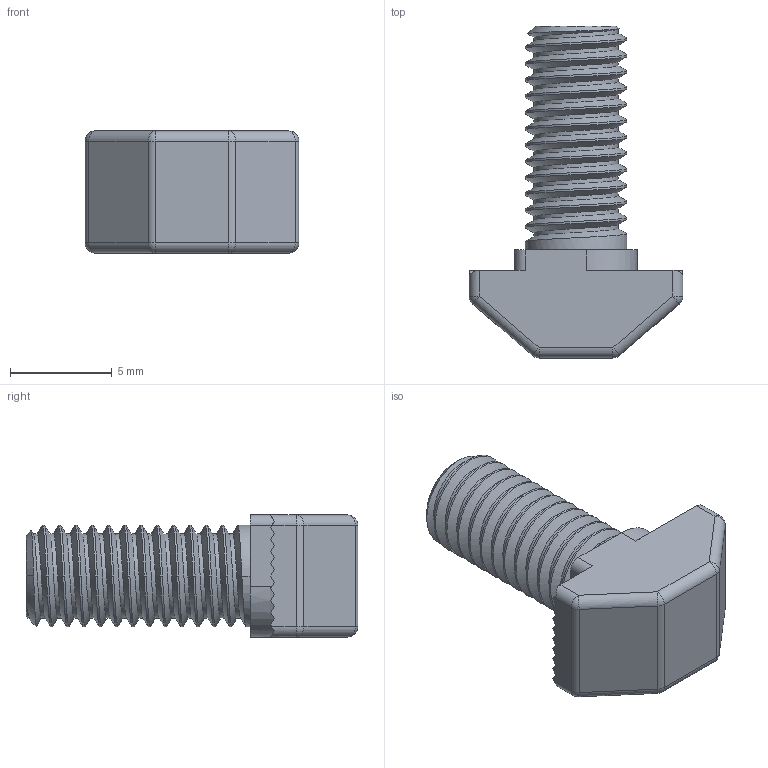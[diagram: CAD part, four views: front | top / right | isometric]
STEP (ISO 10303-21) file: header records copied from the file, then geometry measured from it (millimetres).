
FILE_DESCRIPTION (( 'STEP AP214' ), '1' );
FILE_NAME ('6-2-M5x12.STEP', '2018-12-28T11:19:14', ( '' ), ( '' ), 'SwSTEP 2.0', 'SolidWorks 2018', '' );
FILE_SCHEMA (( 'AUTOMOTIVE_DESIGN' ));
Length unit declared in the file: millimetre
Products named in the file (1): 6-2-M5x12
Bounding box: 10.5 x 16.3 x 6 mm (x, y, z)
Volume: 422.6 mm3; surface area: 492.7 mm2
Topology: 1 solids, 1 shells, 112 faces, 306 edges, 189 vertices
Faces by surface type: plane 54, cylinder 45, sphere 8, bspline 3, cone 2
Entity records: 5456 total; most frequent: CARTESIAN_POINT 2891, ORIENTED_EDGE 596, DIRECTION 463, EDGE_CURVE 298, VERTEX_POINT 189, LINE 173, VECTOR 173, AXIS2_PLACEMENT_3D 145
